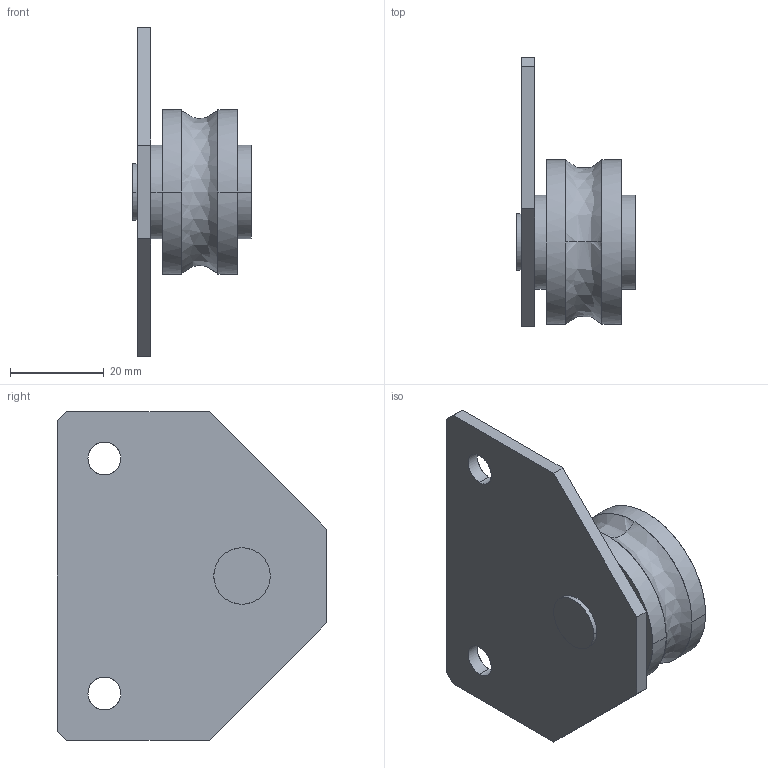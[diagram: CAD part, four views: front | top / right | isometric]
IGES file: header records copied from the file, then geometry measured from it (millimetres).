
Global section: file name: No Iges File Name specified; native system: AutoDesk Inventor R11.0; preprocessor: AutoDesk Inventor Iges Exporter R11.0; author: No Author specified; organization: No Organization specified; date: 20190511.111229; units: millimetre
Bounding box: 25.2 x 57.3 x 70 mm (x, y, z)
Surface area: 11454.3 mm2 (no closed solid volume)
Topology: 0 solids, 0 shells, 33 faces, 216 edges, 216 vertices
Faces by surface type: bspline 33
